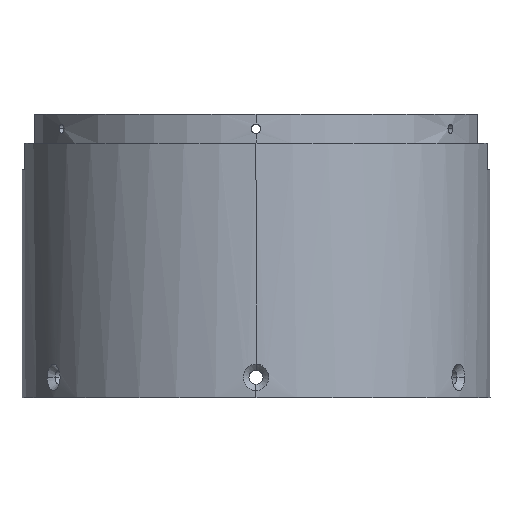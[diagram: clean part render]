
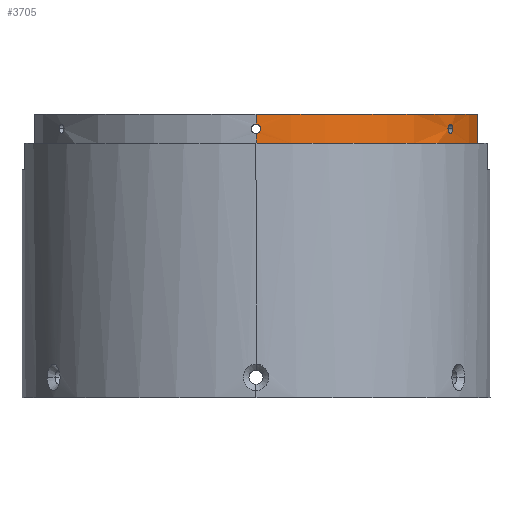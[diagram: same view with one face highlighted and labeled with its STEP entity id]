
A CAD part, left-side view. The second image highlights one B-rep face of the part: STEP entity #3705.
In plain terms, the highlighted cylindrical face has radius 38.384 mm (diameter 76.768 mm), a partial arc.
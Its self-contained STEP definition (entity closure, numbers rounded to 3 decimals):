
#96 = VERTEX_POINT ( 'NONE', #3764 ) ;
#124 = DIRECTION ( 'NONE',  ( 0., 0., -1. ) ) ;
#134 = CARTESIAN_POINT ( 'NONE',  ( -18.829, -33.449, 38.287 ) ) ;
#258 = DIRECTION ( 'NONE',  ( 0., 0., -1. ) ) ;
#304 = CARTESIAN_POINT ( 'NONE',  ( -38.384, 0., 39.8 ) ) ;
#413 = ORIENTED_EDGE ( 'NONE', *, *, #2806, .T. ) ;
#426 = CARTESIAN_POINT ( 'NONE',  ( -18.495, -33.634, 39. ) ) ;
#427 = CARTESIAN_POINT ( 'NONE',  ( -38.378, -0.699, 38.597 ) ) ;
#440 = CARTESIAN_POINT ( 'NONE',  ( -38.384, 0., 41.5 ) ) ;
#461 = LINE ( 'NONE', #3723, #1061 ) ;
#479 = EDGE_LOOP ( 'NONE', ( #4145, #887, #3724, #650, #413, #4052 ) ) ;
#520 = AXIS2_PLACEMENT_3D ( 'NONE', #4493, #4472, #2611 ) ;
#572 = CARTESIAN_POINT ( 'NONE',  ( -6.25, -37.872, 41.5 ) ) ;
#636 = CARTESIAN_POINT ( 'NONE',  ( -19.374, -33.136, 39.779 ) ) ;
#650 = ORIENTED_EDGE ( 'NONE', *, *, #4187, .T. ) ;
#699 = EDGE_CURVE ( 'NONE', #3652, #1067, #1089, .T. ) ;
#710 = CARTESIAN_POINT ( 'NONE',  ( -18.571, -33.593, 39.418 ) ) ;
#746 = VERTEX_POINT ( 'NONE', #1236 ) ;
#784 = CARTESIAN_POINT ( 'NONE',  ( -38.381, -0.492, 39.639 ) ) ;
#809 = CARTESIAN_POINT ( 'NONE',  ( -19.282, -33.19, 38.2 ) ) ;
#833 = CARTESIAN_POINT ( 'NONE',  ( -19.881, -32.834, 38.896 ) ) ;
#887 = ORIENTED_EDGE ( 'NONE', *, *, #699, .T. ) ;
#1022 = CARTESIAN_POINT ( 'NONE',  ( -38.384, -0.106, 39.8 ) ) ;
#1061 = VECTOR ( 'NONE', #124, 1000. ) ;
#1067 = VERTEX_POINT ( 'NONE', #3239 ) ;
#1089 = LINE ( 'NONE', #3635, #3654 ) ;
#1144 = AXIS2_PLACEMENT_3D ( 'NONE', #1900, #2723, #1610 ) ;
#1169 = EDGE_CURVE ( 'NONE', #3652, #746, #3575, .T. ) ;
#1178 = VERTEX_POINT ( 'NONE', #426 ) ;
#1236 = CARTESIAN_POINT ( 'NONE',  ( -6.25, -37.872, 41.5 ) ) ;
#1241 = CARTESIAN_POINT ( 'NONE',  ( -19.373, -33.137, 38.221 ) ) ;
#1342 = B_SPLINE_CURVE_WITH_KNOTS ( 'NONE', 3,
 ( #304, #1022, #3253, #1505, #784, #2207, #2185, #1798, #3736, #427, #1892, #1530, #1846, #2937, #3374, #4482 ),
 .UNSPECIFIED., .F., .F.,
 ( 4, 2, 2, 2, 2, 2, 2, 4 ),
 ( 0., 0., 0.001, 0.001, 0.002, 0.002, 0.002, 0.003 ),
 .UNSPECIFIED. ) ;
#1363 = LINE ( 'NONE', #572, #3392 ) ;
#1367 = VERTEX_POINT ( 'NONE', #2199 ) ;
#1408 = CARTESIAN_POINT ( 'NONE',  ( -19.617, -32.993, 39.639 ) ) ;
#1482 = CARTESIAN_POINT ( 'NONE',  ( 0., 0., 41.5 ) ) ;
#1486 = CARTESIAN_POINT ( 'NONE',  ( -38.384, 0., 38.2 ) ) ;
#1505 = CARTESIAN_POINT ( 'NONE',  ( -38.382, -0.403, 39.699 ) ) ;
#1530 = CARTESIAN_POINT ( 'NONE',  ( -38.381, -0.491, 38.36 ) ) ;
#1542 = CYLINDRICAL_SURFACE ( 'NONE', #520, 38.384 ) ;
#1553 = CARTESIAN_POINT ( 'NONE',  ( -19.616, -32.994, 38.36 ) ) ;
#1601 = CARTESIAN_POINT ( 'NONE',  ( -19.863, -32.845, 38.791 ) ) ;
#1610 = DIRECTION ( 'NONE',  ( 1., 0., 0. ) ) ;
#1679 = FACE_OUTER_BOUND ( 'NONE', #479, .T. ) ;
#1744 = CARTESIAN_POINT ( 'NONE',  ( -18.842, -33.441, 39.699 ) ) ;
#1798 = CARTESIAN_POINT ( 'NONE',  ( -38.376, -0.8, 38.896 ) ) ;
#1846 = CARTESIAN_POINT ( 'NONE',  ( -38.382, -0.403, 38.301 ) ) ;
#1892 = CARTESIAN_POINT ( 'NONE',  ( -38.379, -0.64, 38.509 ) ) ;
#1897 = B_SPLINE_CURVE_WITH_KNOTS ( 'NONE', 3,
 ( #3251, #2107, #4413, #1408, #2470, #636, #3590, #3639, #4695, #1744, #3299, #710, #4749, #3613 ),
 .UNSPECIFIED., .F., .F.,
 ( 4, 2, 2, 2, 2, 2, 4 ),
 ( 0.003, 0.003, 0.003, 0.004, 0.004, 0.004, 0.005 ),
 .UNSPECIFIED. ) ;
#1900 = CARTESIAN_POINT ( 'NONE',  ( 0., 0., 36.5 ) ) ;
#2107 = CARTESIAN_POINT ( 'NONE',  ( -19.881, -32.834, 39.209 ) ) ;
#2150 = CIRCLE ( 'NONE', #1144, 38.384 ) ;
#2185 = CARTESIAN_POINT ( 'NONE',  ( -38.376, -0.8, 39.209 ) ) ;
#2199 = CARTESIAN_POINT ( 'NONE',  ( -6.25, -37.872, 36.5 ) ) ;
#2207 = CARTESIAN_POINT ( 'NONE',  ( -38.378, -0.713, 39.418 ) ) ;
#2280 = CARTESIAN_POINT ( 'NONE',  ( -19.744, -32.917, 38.509 ) ) ;
#2304 = CARTESIAN_POINT ( 'NONE',  ( -18.495, -33.634, 38.894 ) ) ;
#2327 = CARTESIAN_POINT ( 'NONE',  ( -18.636, -33.557, 38.508 ) ) ;
#2470 = CARTESIAN_POINT ( 'NONE',  ( -19.541, -33.038, 39.699 ) ) ;
#2611 = DIRECTION ( 'NONE',  ( -1., 0., 0. ) ) ;
#2723 = DIRECTION ( 'NONE',  ( 0., 0., 1. ) ) ;
#2806 = EDGE_CURVE ( 'NONE', #4520, #1367, #2150, .T. ) ;
#2936 = DIRECTION ( 'NONE',  ( 0., 0., 1. ) ) ;
#2937 = CARTESIAN_POINT ( 'NONE',  ( -38.384, -0.209, 38.221 ) ) ;
#2938 = EDGE_CURVE ( 'NONE', #746, #1367, #1363, .T. ) ;
#2960 = DIRECTION ( 'NONE',  ( 1., 0., 0. ) ) ;
#3032 = VERTEX_POINT ( 'NONE', #1486 ) ;
#3033 = CARTESIAN_POINT ( 'NONE',  ( -19.794, -32.887, 38.597 ) ) ;
#3212 = ORIENTED_EDGE ( 'NONE', *, *, #4530, .T. ) ;
#3239 = CARTESIAN_POINT ( 'NONE',  ( -38.384, 0., 39.8 ) ) ;
#3251 = CARTESIAN_POINT ( 'NONE',  ( -19.881, -32.834, 39. ) ) ;
#3253 = CARTESIAN_POINT ( 'NONE',  ( -38.384, -0.209, 39.779 ) ) ;
#3258 = ORIENTED_EDGE ( 'NONE', *, *, #3361, .T. ) ;
#3299 = CARTESIAN_POINT ( 'NONE',  ( -18.765, -33.485, 39.64 ) ) ;
#3361 = EDGE_CURVE ( 'NONE', #96, #1178, #1897, .T. ) ;
#3374 = CARTESIAN_POINT ( 'NONE',  ( -38.384, -0.104, 38.2 ) ) ;
#3392 = VECTOR ( 'NONE', #258, 1000. ) ;
#3421 = CARTESIAN_POINT ( 'NONE',  ( -18.584, -33.586, 38.597 ) ) ;
#3442 = CARTESIAN_POINT ( 'NONE',  ( -18.513, -33.624, 38.791 ) ) ;
#3464 = CARTESIAN_POINT ( 'NONE',  ( -19.011, -33.346, 38.2 ) ) ;
#3486 = CARTESIAN_POINT ( 'NONE',  ( -38.384, 0., 36.5 ) ) ;
#3575 = CIRCLE ( 'NONE', #3885, 38.384 ) ;
#3590 = CARTESIAN_POINT ( 'NONE',  ( -19.284, -33.188, 39.8 ) ) ;
#3613 = CARTESIAN_POINT ( 'NONE',  ( -18.495, -33.634, 39. ) ) ;
#3635 = CARTESIAN_POINT ( 'NONE',  ( -38.384, 0., 41.5 ) ) ;
#3639 = CARTESIAN_POINT ( 'NONE',  ( -19.101, -33.294, 39.8 ) ) ;
#3652 = VERTEX_POINT ( 'NONE', #440 ) ;
#3654 = VECTOR ( 'NONE', #4691, 1000. ) ;
#3705 = ADVANCED_FACE ( 'NONE', ( #4543, #1679 ), #1542, .T. ) ;
#3723 = CARTESIAN_POINT ( 'NONE',  ( -38.384, 0., 41.5 ) ) ;
#3724 = ORIENTED_EDGE ( 'NONE', *, *, #4341, .T. ) ;
#3736 = CARTESIAN_POINT ( 'NONE',  ( -38.376, -0.779, 38.791 ) ) ;
#3764 = CARTESIAN_POINT ( 'NONE',  ( -19.881, -32.834, 39. ) ) ;
#3783 = CARTESIAN_POINT ( 'NONE',  ( -19.881, -32.834, 39. ) ) ;
#3809 = CARTESIAN_POINT ( 'NONE',  ( -19.54, -33.039, 38.301 ) ) ;
#3885 = AXIS2_PLACEMENT_3D ( 'NONE', #1482, #2936, #2960 ) ;
#3941 = B_SPLINE_CURVE_WITH_KNOTS ( 'NONE', 3,
 ( #4124, #2304, #3442, #3421, #2327, #134, #3464, #809, #1241, #3809, #1553, #2280, #3033, #1601, #833, #3783 ),
 .UNSPECIFIED., .F., .F.,
 ( 4, 2, 2, 2, 2, 2, 2, 4 ),
 ( 0., 0., 0.001, 0.001, 0.002, 0.002, 0.002, 0.003 ),
 .UNSPECIFIED. ) ;
#3989 = EDGE_LOOP ( 'NONE', ( #3212, #3258 ) ) ;
#4052 = ORIENTED_EDGE ( 'NONE', *, *, #2938, .F. ) ;
#4124 = CARTESIAN_POINT ( 'NONE',  ( -18.495, -33.634, 39. ) ) ;
#4145 = ORIENTED_EDGE ( 'NONE', *, *, #1169, .F. ) ;
#4187 = EDGE_CURVE ( 'NONE', #3032, #4520, #461, .T. ) ;
#4341 = EDGE_CURVE ( 'NONE', #1067, #3032, #1342, .T. ) ;
#4413 = CARTESIAN_POINT ( 'NONE',  ( -19.807, -32.879, 39.418 ) ) ;
#4472 = DIRECTION ( 'NONE',  ( 0., 0., -1. ) ) ;
#4482 = CARTESIAN_POINT ( 'NONE',  ( -38.384, 0., 38.2 ) ) ;
#4493 = CARTESIAN_POINT ( 'NONE',  ( 0., 0., 41.5 ) ) ;
#4520 = VERTEX_POINT ( 'NONE', #3486 ) ;
#4530 = EDGE_CURVE ( 'NONE', #1178, #96, #3941, .T. ) ;
#4543 = FACE_BOUND ( 'NONE', #3989, .T. ) ;
#4691 = DIRECTION ( 'NONE',  ( 0., 0., -1. ) ) ;
#4695 = CARTESIAN_POINT ( 'NONE',  ( -19.011, -33.346, 39.779 ) ) ;
#4749 = CARTESIAN_POINT ( 'NONE',  ( -18.495, -33.634, 39.211 ) ) ;
